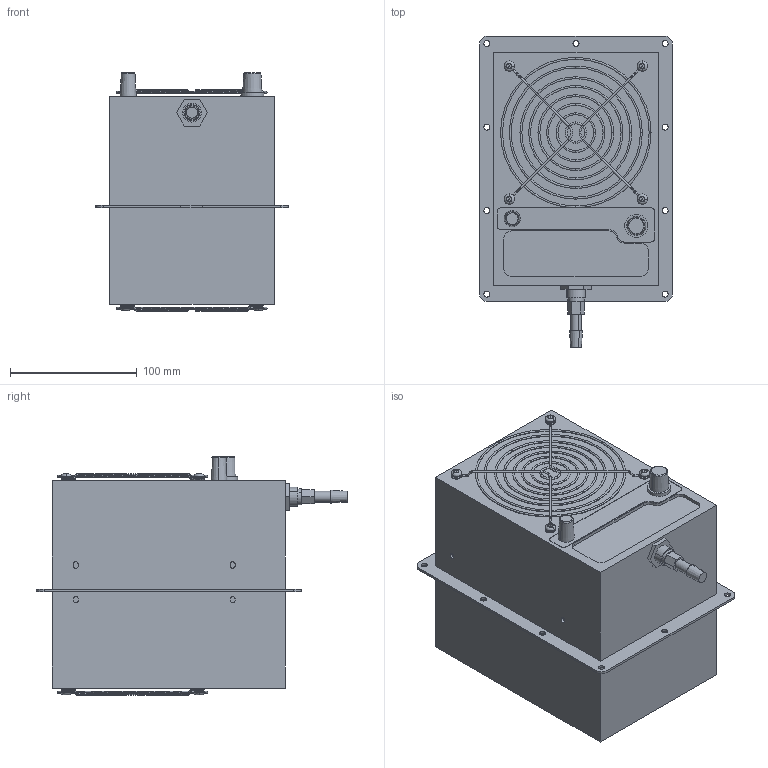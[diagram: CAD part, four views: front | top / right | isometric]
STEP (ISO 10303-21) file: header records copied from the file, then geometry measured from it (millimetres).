
FILE_DESCRIPTION (( 'STEP AP214' ), '1' );
FILE_NAME ('ASSEMBLY 120T.STEP', '2013-05-29T14:12:05', ( '' ), ( '' ), 'SwSTEP 2.0', 'SolidWorks 2012', '' );
FILE_SCHEMA (( 'AUTOMOTIVE_DESIGN' ));
Length unit declared in the file: inch
Products named in the file (4): ASSEMBLY 120T; User Library-grille ventilateur 120mm - 544-0548_D‚faut; Fitting_04 120f; 120T VERTICAL RAIN SHROUD ASSEMBLY_no shroud
Assembly tree (4 placements, depth 2):
  ASSEMBLY 120T
    120T VERTICAL RAIN SHROUD ASSEMBLY_no shroud
    User Library-grille ventilateur 120mm - 544-0548_D‚faut  x2
    Fitting_04 120f
Bounding box: 152.4 x 246.22 x 188.09 mm (x, y, z)
Volume: 3952309.1 mm3; surface area: 193080.2 mm2
Topology: 30 solids, 30 shells, 616 faces, 1392 edges, 872 vertices
Faces by surface type: torus 224, plane 213, cylinder 140, cone 39
Entity records: 11378 total; most frequent: DIRECTION 2125, CARTESIAN_POINT 1952, ORIENTED_EDGE 1760, AXIS2_PLACEMENT_3D 891, EDGE_CURVE 880, VERTEX_POINT 558, CIRCLE 502, EDGE_LOOP 430
